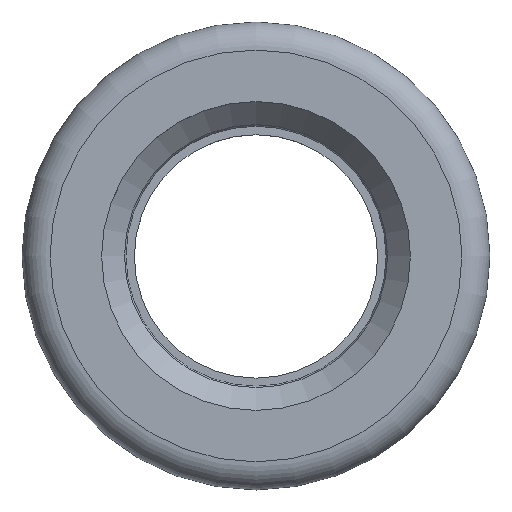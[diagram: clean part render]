
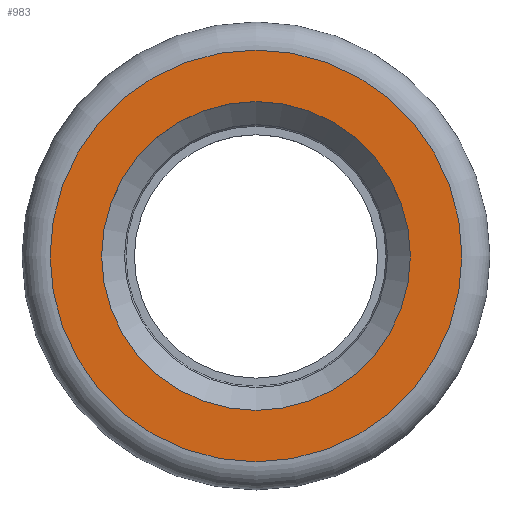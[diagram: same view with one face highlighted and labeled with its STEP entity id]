
A CAD part, top view. The second image highlights one B-rep face of the part: STEP entity #983.
In plain terms, the highlighted planar face has unit normal (0, 0, 1).
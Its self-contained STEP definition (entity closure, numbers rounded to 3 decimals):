
#68=PLANE('',#1126);
#142=FACE_BOUND('',#350,.T.);
#143=FACE_BOUND('',#351,.T.);
#350=EDGE_LOOP('',(#765));
#351=EDGE_LOOP('',(#766));
#461=CIRCLE('',#1127,16.5);
#462=CIRCLE('',#1128,22.);
#544=VERTEX_POINT('',#1685);
#545=VERTEX_POINT('',#1687);
#627=EDGE_CURVE('',#544,#544,#461,.T.);
#628=EDGE_CURVE('',#545,#545,#462,.T.);
#765=ORIENTED_EDGE('',*,*,#627,.T.);
#766=ORIENTED_EDGE('',*,*,#628,.F.);
#983=ADVANCED_FACE('',(#142,#143),#68,.T.);
#1126=AXIS2_PLACEMENT_3D('',#1684,#1407,#1408);
#1127=AXIS2_PLACEMENT_3D('',#1686,#1409,#1410);
#1128=AXIS2_PLACEMENT_3D('',#1688,#1411,#1412);
#1407=DIRECTION('center_axis',(0.,0.,1.));
#1408=DIRECTION('ref_axis',(1.,0.,0.));
#1409=DIRECTION('center_axis',(0.,0.,-1.));
#1410=DIRECTION('ref_axis',(1.,0.,0.));
#1411=DIRECTION('center_axis',(0.,0.,-1.));
#1412=DIRECTION('ref_axis',(1.,0.,0.));
#1684=CARTESIAN_POINT('Origin',(0.,22.,33.));
#1685=CARTESIAN_POINT('',(0.,16.5,33.));
#1686=CARTESIAN_POINT('Origin',(0.,0.,33.));
#1687=CARTESIAN_POINT('',(0.,22.,33.));
#1688=CARTESIAN_POINT('Origin',(0.,0.,33.));
